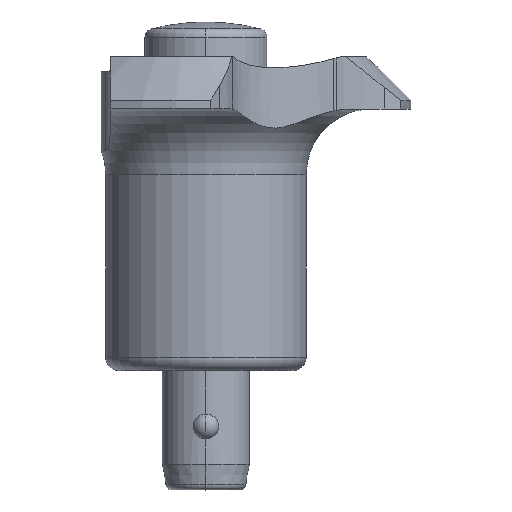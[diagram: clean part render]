
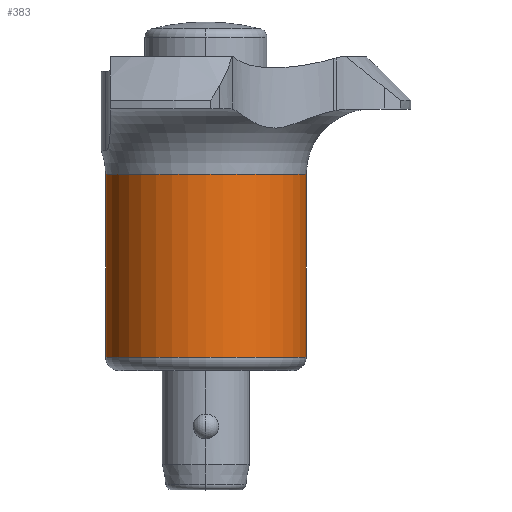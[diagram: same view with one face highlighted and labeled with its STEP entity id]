
A CAD part, top view. The second image highlights one B-rep face of the part: STEP entity #383.
In plain terms, the highlighted cylindrical face has radius 11.5 mm (diameter 23 mm), a partial arc.
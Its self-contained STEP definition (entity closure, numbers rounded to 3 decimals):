
#139 = CARTESIAN_POINT ( 'NONE',  ( 0., 22.5, 0. ) ) ;
#186 = CARTESIAN_POINT ( 'NONE',  ( 11.5, 22.5, 0. ) ) ;
#218 = FACE_OUTER_BOUND ( 'NONE', #2695, .T. ) ;
#383 = ADVANCED_FACE ( 'NONE', ( #218 ), #899, .T. ) ;
#551 = DIRECTION ( 'NONE',  ( 0., 1., 0. ) ) ;
#615 = ORIENTED_EDGE ( 'NONE', *, *, #1316, .F. ) ;
#636 = CARTESIAN_POINT ( 'NONE',  ( -11.5, 36., 0. ) ) ;
#642 = VERTEX_POINT ( 'NONE', #186 ) ;
#739 = CIRCLE ( 'NONE', #1471, 11.5 ) ;
#832 = AXIS2_PLACEMENT_3D ( 'NONE', #2394, #1301, #865 ) ;
#835 = EDGE_CURVE ( 'NONE', #1738, #2632, #2236, .T. ) ;
#850 = LINE ( 'NONE', #1039, #2580 ) ;
#865 = DIRECTION ( 'NONE',  ( 1., 0., 0. ) ) ;
#894 = EDGE_CURVE ( 'NONE', #1738, #2529, #1154, .T. ) ;
#899 = CYLINDRICAL_SURFACE ( 'NONE', #1058, 11.5 ) ;
#1039 = CARTESIAN_POINT ( 'NONE',  ( 11.5, 36., 0. ) ) ;
#1046 = CARTESIAN_POINT ( 'NONE',  ( 11.5, 1.5, 0. ) ) ;
#1058 = AXIS2_PLACEMENT_3D ( 'NONE', #1962, #1782, #1749 ) ;
#1154 = CIRCLE ( 'NONE', #832, 11.5 ) ;
#1301 = DIRECTION ( 'NONE',  ( 0., 1., 0. ) ) ;
#1316 = EDGE_CURVE ( 'NONE', #2632, #642, #739, .T. ) ;
#1471 = AXIS2_PLACEMENT_3D ( 'NONE', #139, #551, #1885 ) ;
#1510 = ORIENTED_EDGE ( 'NONE', *, *, #894, .T. ) ;
#1691 = CARTESIAN_POINT ( 'NONE',  ( -11.5, 1.5, 0. ) ) ;
#1731 = DIRECTION ( 'NONE',  ( 0., 1., 0. ) ) ;
#1738 = VERTEX_POINT ( 'NONE', #1691 ) ;
#1749 = DIRECTION ( 'NONE',  ( -1., 0., 0. ) ) ;
#1782 = DIRECTION ( 'NONE',  ( 0., 1., 0. ) ) ;
#1885 = DIRECTION ( 'NONE',  ( -1., 0., 0. ) ) ;
#1962 = CARTESIAN_POINT ( 'NONE',  ( 0., 36., 0. ) ) ;
#2069 = EDGE_CURVE ( 'NONE', #2529, #642, #850, .T. ) ;
#2088 = ORIENTED_EDGE ( 'NONE', *, *, #2069, .T. ) ;
#2236 = LINE ( 'NONE', #636, #2537 ) ;
#2346 = CARTESIAN_POINT ( 'NONE',  ( -11.5, 22.5, 0. ) ) ;
#2394 = CARTESIAN_POINT ( 'NONE',  ( 0., 1.5, 0. ) ) ;
#2409 = ORIENTED_EDGE ( 'NONE', *, *, #835, .F. ) ;
#2529 = VERTEX_POINT ( 'NONE', #1046 ) ;
#2537 = VECTOR ( 'NONE', #2842, 1000. ) ;
#2580 = VECTOR ( 'NONE', #1731, 1000. ) ;
#2632 = VERTEX_POINT ( 'NONE', #2346 ) ;
#2695 = EDGE_LOOP ( 'NONE', ( #1510, #2088, #615, #2409 ) ) ;
#2842 = DIRECTION ( 'NONE',  ( 0., 1., 0. ) ) ;
